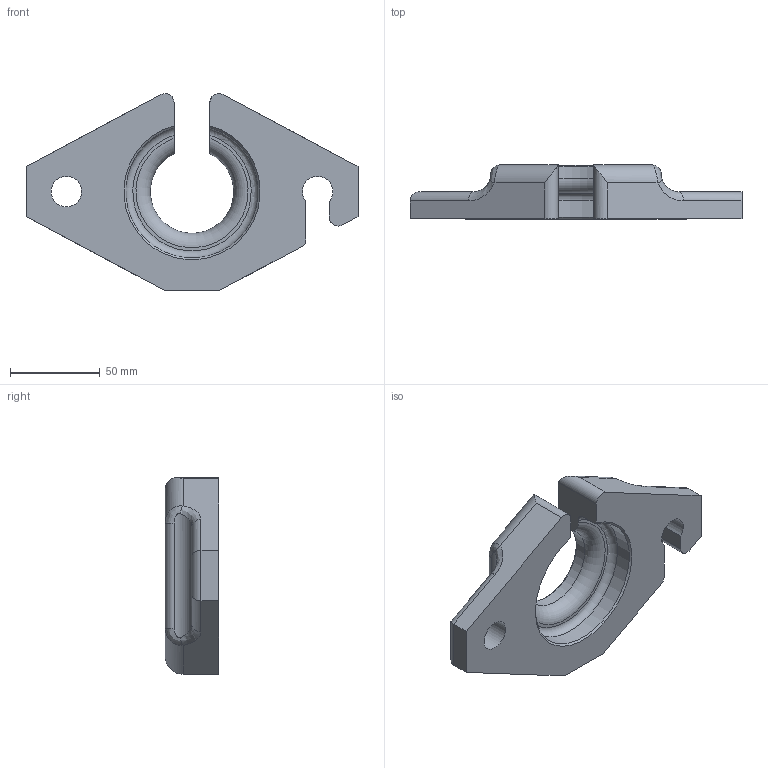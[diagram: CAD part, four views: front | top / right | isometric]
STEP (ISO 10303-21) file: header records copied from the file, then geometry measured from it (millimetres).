
FILE_DESCRIPTION(/* description */ (''),/* implementation_level */ '2;1');
FILE_NAME(/* name */ 'C:/Users/fardi/Dropbox/Work/Anyload/Load Cell Models/Product Catalog 3D/Weight Modules/106/106MHM1/106MHM1-(5-10)klb v2.step',/* time_stamp */ '2020-04-30T11:00:46-07:00',/* author */ (''),/* organization */ (''),/* preprocessor_version */ 'ST-DEVELOPER v18.1',/* originating_system */ 'Autodesk Translation Framework v9.2.0.1227',/* authorisation */ '');
FILE_SCHEMA (('AUTOMOTIVE_DESIGN { 1 0 10303 214 3 1 1 }'));
Length unit declared in the file: millimetre
Products named in the file (2): 106MHM1-(5-10)klb; Base
Assembly tree (1 placements, depth 2):
  106MHM1-(5-10)klb
    Base
Bounding box: 185 x 30 x 109.54 mm (x, y, z)
Volume: 232062 mm3; surface area: 38637.3 mm2
Topology: 1 solids, 1 shells, 52 faces, 134 edges, 84 vertices
Faces by surface type: cylinder 23, plane 17, bspline 8, torus 2, cone 2
Full cylindrical faces by diameter (mm): 17 x1
Entity records: 2251 total; most frequent: CARTESIAN_POINT 953, ORIENTED_EDGE 268, DIRECTION 258, EDGE_CURVE 134, AXIS2_PLACEMENT_3D 95, VERTEX_POINT 84, LINE 68, VECTOR 68
